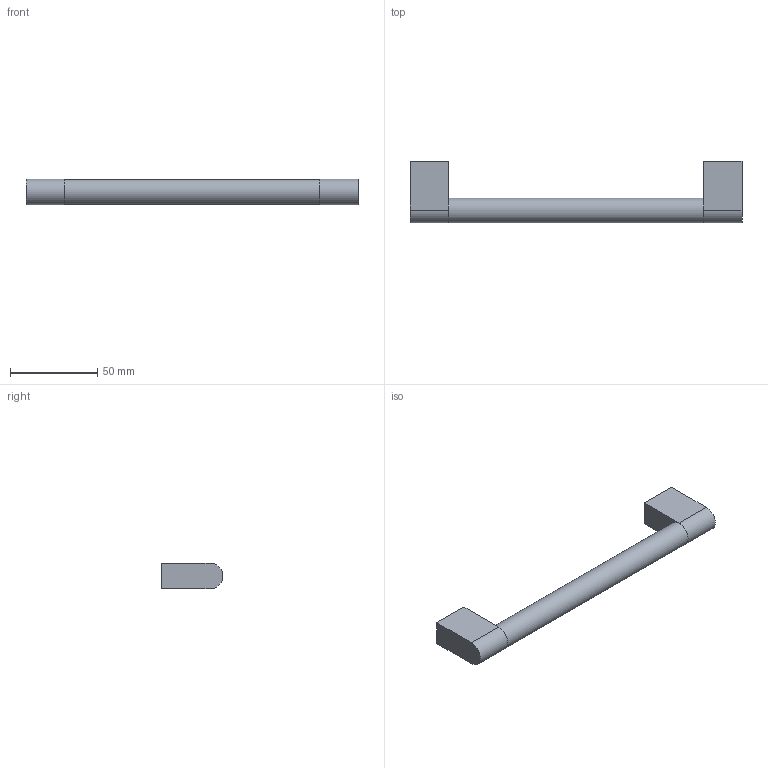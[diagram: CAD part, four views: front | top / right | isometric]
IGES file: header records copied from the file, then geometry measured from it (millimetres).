
Start section: Data from Parasolid IGES Translator 20.0.26, Copyright(c) 2006 Siemens P LM Software. All Rights Reserved.
Global section: file name: 9332318.igs; native system: By Siemens PLM Incorporated; preprocessor: XPlus GENERIC/IGES 20.0.26; author: Noname; organization: Noname; date: 20230829.122539; units: millimetre
Bounding box: 190 x 35.36 x 14.64 mm (x, y, z)
Surface area: 12883 mm2 (no closed solid volume)
Topology: 0 solids, 0 shells, 17 faces, 66 edges, 62 vertices
Faces by surface type: extrusion 12, revolution 5
